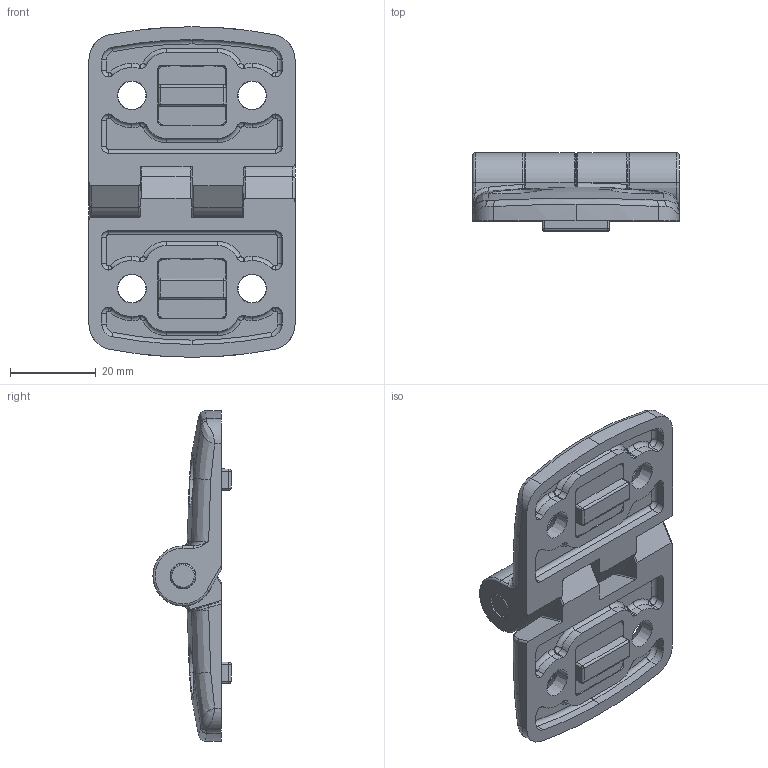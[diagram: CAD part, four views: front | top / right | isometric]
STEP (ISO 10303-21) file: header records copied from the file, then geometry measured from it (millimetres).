
FILE_DESCRIPTION(('STEP AP214'),'1');
FILE_NAME('C:/TPO v2/SharedFS/Outgoing/fath_095a4040f.stp','2016-05-24T11:12:40',('TraceParts'),('TraceParts S.A.'),'Spatial InterOp 3D',' ',' ');
FILE_SCHEMA(('automotive_design'));
Length unit declared in the file: millimetre
Products named in the file (5): 095a4040f|NAUO1#095a40f_095A40F - 114345;V13-0,2; 095a4040f|NAUO2#095a-02e;Kreismuster2; 095a4040f|NAUO3#095a40f_095A40F - 114345;V13-0,2; 095a4040f|NAUO4#095an05_095 a n05;Spiegeln2; 095a4040f|NAUO5#095an05_095 a n05;Spiegeln2
Bounding box: 48 x 18.2 x 77 mm (x, y, z)
Volume: 23286.6 mm3; surface area: 15445.6 mm2
Topology: 5 solids, 5 shells, 836 faces, 2062 edges, 1208 vertices
Faces by surface type: cylinder 274, plane 268, torus 148, bspline 70, cone 60, sphere 16
Entity records: 35155 total; most frequent: CARTESIAN_POINT 9163, DIRECTION 4114, ORIENTED_EDGE 4052, EDGE_CURVE 2026, AXIS2_PLACEMENT_3D 1647, VERTEX_POINT 1208, CIRCLE 876, EDGE_LOOP 860
